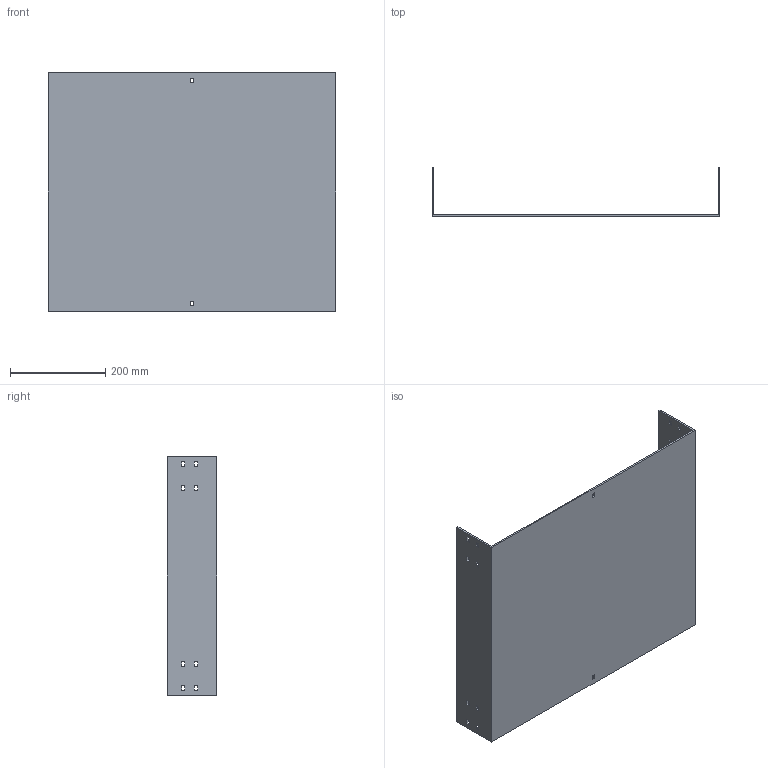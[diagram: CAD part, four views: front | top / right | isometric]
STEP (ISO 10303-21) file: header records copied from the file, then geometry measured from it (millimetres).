
FILE_DESCRIPTION (( 'STEP AP214' ), '1' );
FILE_NAME ('03F7D600.step', '2025-02-21T13:16:58', ( '' ), ( '' ), 'SwSTEP 2.0', 'SolidWorks 2023', '' );
FILE_SCHEMA (( 'AUTOMOTIVE_DESIGN' ));
Length unit declared in the file: millimetre
Products named in the file (1): 03F7D600
Bounding box: 604 x 104 x 500 mm (x, y, z)
Volume: 1404420.5 mm3; surface area: 813782 mm2
Topology: 1 solids, 1 shells, 82 faces, 240 edges, 160 vertices
Faces by surface type: plane 82
Entity records: 2759 total; most frequent: CARTESIAN_POINT 483, ORIENTED_EDGE 480, DIRECTION 406, EDGE_CURVE 240, LINE 240, VECTOR 240, VERTEX_POINT 160, EDGE_LOOP 118
